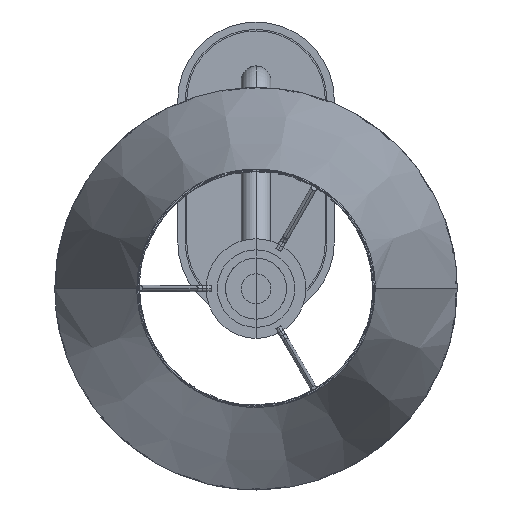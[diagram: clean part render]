
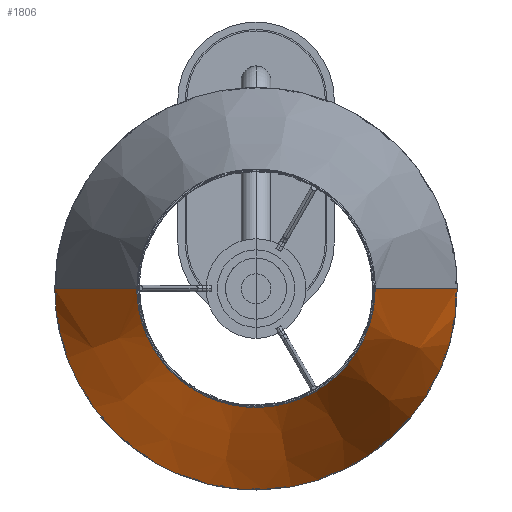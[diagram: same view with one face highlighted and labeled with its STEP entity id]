
A CAD part, top view. The second image highlights one B-rep face of the part: STEP entity #1806.
In plain terms, the highlighted conical face has half-angle 15.525 degrees and reference radius 129.462 mm.
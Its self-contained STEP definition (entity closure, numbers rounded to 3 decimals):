
#30=CONICAL_SURFACE('',#1988,129.462,0.271);
#142=B_SPLINE_CURVE_WITH_KNOTS('',3,(#4802,#4803,#4804,#4805,#4806,#4807,
#4808,#4809,#4810,#4811,#4812),.UNSPECIFIED.,.F.,.F.,(4,1,1,1,1,1,1,1,4),
(0.,0.125,0.25,0.375,0.5,0.625,0.75,0.875,1.),.UNSPECIFIED.);
#145=B_SPLINE_CURVE_WITH_KNOTS('',3,(#5034,#5035,#5036,#5037,#5038,#5039,
#5040,#5041,#5042,#5043,#5044,#5045,#5046,#5047),.UNSPECIFIED.,.F.,.F.,
(4,1,1,1,1,1,1,1,1,1,1,4),(0.,0.091,0.182,0.273,
0.364,0.455,0.545,0.636,
0.727,0.818,0.909,1.),.UNSPECIFIED.);
#294=FACE_OUTER_BOUND('',#416,.T.);
#416=EDGE_LOOP('',(#1566,#1567,#1568,#1569));
#534=LINE('',#5032,#646);
#535=LINE('',#5048,#647);
#646=VECTOR('',#2418,304.8);
#647=VECTOR('',#2419,304.8);
#866=VERTEX_POINT('',#4595);
#867=VERTEX_POINT('',#4801);
#868=VERTEX_POINT('',#5031);
#869=VERTEX_POINT('',#5033);
#1099=EDGE_CURVE('',#867,#866,#142,.T.);
#1102=EDGE_CURVE('',#868,#866,#534,.T.);
#1103=EDGE_CURVE('',#869,#868,#145,.T.);
#1104=EDGE_CURVE('',#867,#869,#535,.T.);
#1566=ORIENTED_EDGE('',*,*,#1099,.T.);
#1567=ORIENTED_EDGE('',*,*,#1102,.F.);
#1568=ORIENTED_EDGE('',*,*,#1103,.F.);
#1569=ORIENTED_EDGE('',*,*,#1104,.F.);
#1806=ADVANCED_FACE('',(#294),#30,.T.);
#1988=AXIS2_PLACEMENT_3D('',#5030,#2416,#2417);
#2416=DIRECTION('center_axis',(0.,0.,
-1.));
#2417=DIRECTION('ref_axis',(0.,-1.,0.));
#2418=DIRECTION('',(0.268,0.,0.964));
#2419=DIRECTION('',(0.268,0.,-0.964));
#4595=CARTESIAN_POINT('',(-79.962,0.,179.772));
#4801=CARTESIAN_POINT('',(79.962,0.,179.772));
#4802=CARTESIAN_POINT('Ctrl Pts',(79.962,0.,
179.772));
#4803=CARTESIAN_POINT('Ctrl Pts',(80.067,-10.509,179.772));
#4804=CARTESIAN_POINT('Ctrl Pts',(75.749,-31.376,179.772));
#4805=CARTESIAN_POINT('Ctrl Pts',(58.026,-58.019,179.772));
#4806=CARTESIAN_POINT('Ctrl Pts',(31.393,-75.797,179.772));
#4807=CARTESIAN_POINT('Ctrl Pts',(0.,-82.044,
179.772));
#4808=CARTESIAN_POINT('Ctrl Pts',(-31.393,-75.797,179.772));
#4809=CARTESIAN_POINT('Ctrl Pts',(-58.026,-58.019,179.772));
#4810=CARTESIAN_POINT('Ctrl Pts',(-75.749,-31.376,179.772));
#4811=CARTESIAN_POINT('Ctrl Pts',(-80.067,-10.509,179.772));
#4812=CARTESIAN_POINT('Ctrl Pts',(-79.962,0.,
179.772));
#5030=CARTESIAN_POINT('Origin',(0.,0.,
1.577));
#5031=CARTESIAN_POINT('',(-134.962,0.,-18.222));
#5032=CARTESIAN_POINT('',(-134.962,0.,-18.222));
#5033=CARTESIAN_POINT('',(134.962,0.,-18.222));
#5034=CARTESIAN_POINT('Ctrl Pts',(134.962,0.,
-18.222));
#5035=CARTESIAN_POINT('Ctrl Pts',(135.013,-12.863,-18.222));
#5036=CARTESIAN_POINT('Ctrl Pts',(131.243,-38.536,-18.222));
#5037=CARTESIAN_POINT('Ctrl Pts',(115.097,-73.966,-18.222));
#5038=CARTESIAN_POINT('Ctrl Pts',(89.589,-103.393,-18.222));
#5039=CARTESIAN_POINT('Ctrl Pts',(56.833,-124.446,-18.222));
#5040=CARTESIAN_POINT('Ctrl Pts',(19.47,-135.416,-18.222));
#5041=CARTESIAN_POINT('Ctrl Pts',(-19.47,-135.416,-18.222));
#5042=CARTESIAN_POINT('Ctrl Pts',(-56.833,-124.446,-18.222));
#5043=CARTESIAN_POINT('Ctrl Pts',(-89.589,-103.393,-18.222));
#5044=CARTESIAN_POINT('Ctrl Pts',(-115.097,-73.966,-18.222));
#5045=CARTESIAN_POINT('Ctrl Pts',(-131.243,-38.536,-18.222));
#5046=CARTESIAN_POINT('Ctrl Pts',(-135.013,-12.863,-18.222));
#5047=CARTESIAN_POINT('Ctrl Pts',(-134.962,0.,
-18.222));
#5048=CARTESIAN_POINT('',(79.962,0.,179.772));
